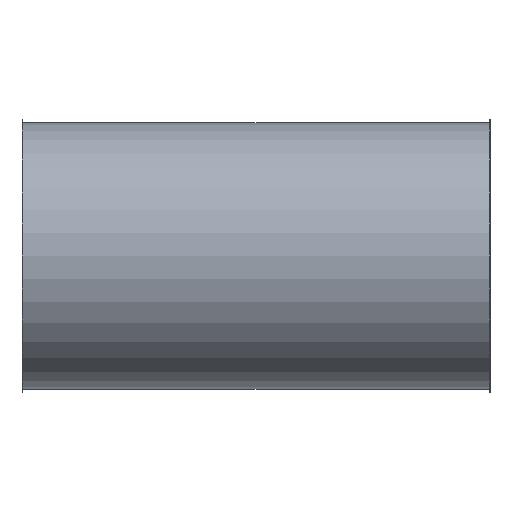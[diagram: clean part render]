
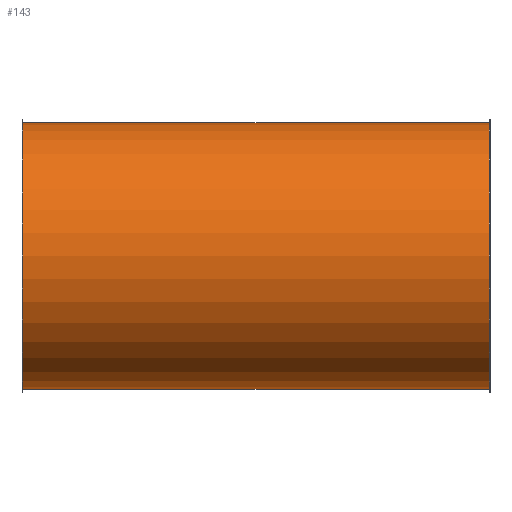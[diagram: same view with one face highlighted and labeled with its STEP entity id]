
A CAD part, front view. The second image highlights one B-rep face of the part: STEP entity #143.
In plain terms, the highlighted cylindrical face has radius 281 mm (diameter 562 mm), a full revolution.
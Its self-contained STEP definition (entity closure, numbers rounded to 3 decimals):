
#112=CARTESIAN_POINT('',(952.119,2.817,0.0));
#113=VERTEX_POINT('',#112);
#114=CARTESIAN_POINT('',(952.119,283.817,0.0));
#115=DIRECTION('',(-1.0,0.0,0.0));
#116=DIRECTION('',(0.0,-1.0,0.0));
#117=AXIS2_PLACEMENT_3D('',#114,#115,#116);
#118=CIRCLE('',#117,281.);
#119=EDGE_CURVE('',#113,#113,#118,.T.);
#124=CARTESIAN_POINT('',(461.119,283.817,0.0));
#125=DIRECTION('',(-1.0,0.,0.0));
#126=DIRECTION('',(0.0,-1.0,0.0));
#127=AXIS2_PLACEMENT_3D('',#124,#125,#126);
#128=CYLINDRICAL_SURFACE('',#127,281.);
#129=CARTESIAN_POINT('',(-29.881,2.817,0.0));
#130=VERTEX_POINT('',#129);
#131=CARTESIAN_POINT('',(-29.881,283.817,0.0));
#132=DIRECTION('',(-1.0,0.0,0.0));
#133=DIRECTION('',(0.0,-1.0,0.0));
#134=AXIS2_PLACEMENT_3D('',#131,#132,#133);
#135=CIRCLE('',#134,281.0);
#136=EDGE_CURVE('',#130,#130,#135,.T.);
#137=ORIENTED_EDGE('',*,*,#136,.F.);
#138=EDGE_LOOP('',(#137));
#139=FACE_OUTER_BOUND('',#138,.T.);
#140=ORIENTED_EDGE('',*,*,#119,.T.);
#141=EDGE_LOOP('',(#140));
#142=FACE_BOUND('',#141,.T.);
#143=ADVANCED_FACE('',(#139,#142),#128,.T.);
